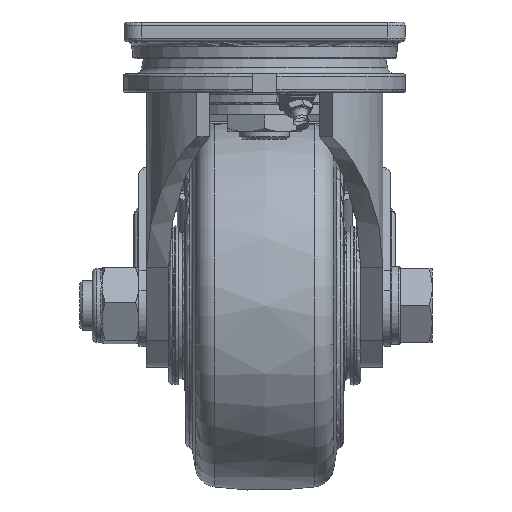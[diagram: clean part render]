
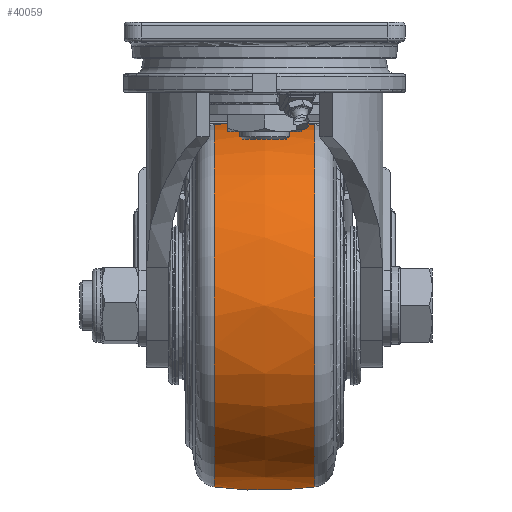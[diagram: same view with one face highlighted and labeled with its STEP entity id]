
A CAD part, left-side view. The second image highlights one B-rep face of the part: STEP entity #40059.
In plain terms, the highlighted free-form (B-spline) face has degree [2, 2] with [3, 9] control points.
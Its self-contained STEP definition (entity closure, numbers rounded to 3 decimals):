
#279=(
BOUNDED_SURFACE()
B_SPLINE_SURFACE(2,2,((#57389,#57390,#57391,#57392,#57393,#57394,#57395,
#57396,#57397),(#57398,#57399,#57400,#57401,#57402,#57403,#57404,#57405,
#57406),(#57407,#57408,#57409,#57410,#57411,#57412,#57413,#57414,#57415)),
 .UNSPECIFIED.,.F.,.T.,.F.)
B_SPLINE_SURFACE_WITH_KNOTS((3,3),(3,2,2,2,3),(-0.136,0.136),
(-3.142,-1.571,0.,1.571,3.142),
 .UNSPECIFIED.)
GEOMETRIC_REPRESENTATION_ITEM()
RATIONAL_B_SPLINE_SURFACE(((1.,0.707,1.,0.707,1.,
0.707,1.,0.707,1.),(0.991,0.701,
0.991,0.701,0.991,0.701,0.991,
0.701,0.991),(1.,0.707,1.,0.707,
1.,0.707,1.,0.707,1.)))
REPRESENTATION_ITEM('')
SURFACE()
);
#9701=FACE_OUTER_BOUND('',#12169,.T.);
#12169=EDGE_LOOP('',(#27597,#27598,#27599,#27600,#27601,#27602,#27603,#27604));
#14891=CIRCLE('',#42753,73.606);
#14892=CIRCLE('',#42754,73.606);
#14893=CIRCLE('',#42755,73.606);
#14894=CIRCLE('',#42756,150.);
#14895=CIRCLE('',#42757,73.606);
#14896=CIRCLE('',#42758,73.606);
#14897=CIRCLE('',#42759,73.606);
#16894=VERTEX_POINT('',#57382);
#16895=VERTEX_POINT('',#57384);
#16896=VERTEX_POINT('',#57386);
#16897=VERTEX_POINT('',#57416);
#16898=VERTEX_POINT('',#57418);
#16899=VERTEX_POINT('',#57420);
#20987=EDGE_CURVE('',#16894,#16895,#14891,.T.);
#20988=EDGE_CURVE('',#16895,#16896,#14892,.T.);
#20989=EDGE_CURVE('',#16896,#16894,#14893,.T.);
#20990=EDGE_CURVE('',#16895,#16897,#14894,.T.);
#20991=EDGE_CURVE('',#16897,#16898,#14895,.T.);
#20992=EDGE_CURVE('',#16898,#16899,#14896,.T.);
#20993=EDGE_CURVE('',#16899,#16897,#14897,.T.);
#27597=ORIENTED_EDGE('',*,*,#20989,.F.);
#27598=ORIENTED_EDGE('',*,*,#20988,.F.);
#27599=ORIENTED_EDGE('',*,*,#20990,.T.);
#27600=ORIENTED_EDGE('',*,*,#20991,.T.);
#27601=ORIENTED_EDGE('',*,*,#20992,.T.);
#27602=ORIENTED_EDGE('',*,*,#20993,.T.);
#27603=ORIENTED_EDGE('',*,*,#20990,.F.);
#27604=ORIENTED_EDGE('',*,*,#20987,.F.);
#40059=ADVANCED_FACE('',(#9701),#279,.F.);
#42753=AXIS2_PLACEMENT_3D('',#57385,#46936,#46937);
#42754=AXIS2_PLACEMENT_3D('',#57387,#46938,#46939);
#42755=AXIS2_PLACEMENT_3D('',#57388,#46940,#46941);
#42756=AXIS2_PLACEMENT_3D('',#57417,#46942,#46943);
#42757=AXIS2_PLACEMENT_3D('',#57419,#46944,#46945);
#42758=AXIS2_PLACEMENT_3D('',#57421,#46946,#46947);
#42759=AXIS2_PLACEMENT_3D('',#57422,#46948,#46949);
#46936=DIRECTION('center_axis',(0.,-1.,0.));
#46937=DIRECTION('ref_axis',(0.273,0.,0.962));
#46938=DIRECTION('center_axis',(0.,-1.,0.));
#46939=DIRECTION('ref_axis',(0.273,0.,0.962));
#46940=DIRECTION('center_axis',(0.,-1.,0.));
#46941=DIRECTION('ref_axis',(0.273,0.,0.962));
#46942=DIRECTION('center_axis',(1.,0.,0.));
#46943=DIRECTION('ref_axis',(0.,0.,
-1.));
#46944=DIRECTION('center_axis',(0.,-1.,0.));
#46945=DIRECTION('ref_axis',(0.273,0.,0.962));
#46946=DIRECTION('center_axis',(0.,-1.,0.));
#46947=DIRECTION('ref_axis',(0.273,0.,0.962));
#46948=DIRECTION('center_axis',(0.,-1.,0.));
#46949=DIRECTION('ref_axis',(0.273,0.,0.962));
#57382=CARTESIAN_POINT('',(-18.809,-20.406,-64.905));
#57384=CARTESIAN_POINT('',(52.,-20.406,-158.606));
#57385=CARTESIAN_POINT('Origin',(52.,-20.406,-85.));
#57386=CARTESIAN_POINT('',(72.095,-20.406,-14.191));
#57387=CARTESIAN_POINT('Origin',(52.,-20.406,-85.));
#57388=CARTESIAN_POINT('Origin',(52.,-20.406,-85.));
#57389=CARTESIAN_POINT('Ctrl Pts',(52.,-20.406,-158.606));
#57390=CARTESIAN_POINT('Ctrl Pts',(-21.606,-20.406,
-158.606));
#57391=CARTESIAN_POINT('Ctrl Pts',(-21.606,-20.406,-85.));
#57392=CARTESIAN_POINT('Ctrl Pts',(-21.606,-20.406,
-11.394));
#57393=CARTESIAN_POINT('Ctrl Pts',(52.,-20.406,-11.394));
#57394=CARTESIAN_POINT('Ctrl Pts',(125.606,-20.406,-11.394));
#57395=CARTESIAN_POINT('Ctrl Pts',(125.606,-20.406,-85.));
#57396=CARTESIAN_POINT('Ctrl Pts',(125.606,-20.406,-158.606));
#57397=CARTESIAN_POINT('Ctrl Pts',(52.,-20.406,-158.606));
#57398=CARTESIAN_POINT('Ctrl Pts',(52.,0.,
-161.408));
#57399=CARTESIAN_POINT('Ctrl Pts',(-24.408,0.,
-161.408));
#57400=CARTESIAN_POINT('Ctrl Pts',(-24.408,0.,
-85.));
#57401=CARTESIAN_POINT('Ctrl Pts',(-24.408,0.,
-8.592));
#57402=CARTESIAN_POINT('Ctrl Pts',(52.,0.,
-8.592));
#57403=CARTESIAN_POINT('Ctrl Pts',(128.408,0.,
-8.592));
#57404=CARTESIAN_POINT('Ctrl Pts',(128.408,0.,
-85.));
#57405=CARTESIAN_POINT('Ctrl Pts',(128.408,0.,
-161.408));
#57406=CARTESIAN_POINT('Ctrl Pts',(52.,0.,
-161.408));
#57407=CARTESIAN_POINT('Ctrl Pts',(52.,20.406,-158.606));
#57408=CARTESIAN_POINT('Ctrl Pts',(-21.606,20.406,-158.606));
#57409=CARTESIAN_POINT('Ctrl Pts',(-21.606,20.406,-85.));
#57410=CARTESIAN_POINT('Ctrl Pts',(-21.606,20.406,-11.394));
#57411=CARTESIAN_POINT('Ctrl Pts',(52.,20.406,-11.394));
#57412=CARTESIAN_POINT('Ctrl Pts',(125.606,20.406,-11.394));
#57413=CARTESIAN_POINT('Ctrl Pts',(125.606,20.406,-85.));
#57414=CARTESIAN_POINT('Ctrl Pts',(125.606,20.406,-158.606));
#57415=CARTESIAN_POINT('Ctrl Pts',(52.,20.406,-158.606));
#57416=CARTESIAN_POINT('',(52.,20.406,-158.606));
#57417=CARTESIAN_POINT('Origin',(52.,0.,-10.));
#57418=CARTESIAN_POINT('',(72.095,20.406,-14.191));
#57419=CARTESIAN_POINT('Origin',(52.,20.406,-85.));
#57420=CARTESIAN_POINT('',(-18.809,20.406,-64.905));
#57421=CARTESIAN_POINT('Origin',(52.,20.406,-85.));
#57422=CARTESIAN_POINT('Origin',(52.,20.406,-85.));
